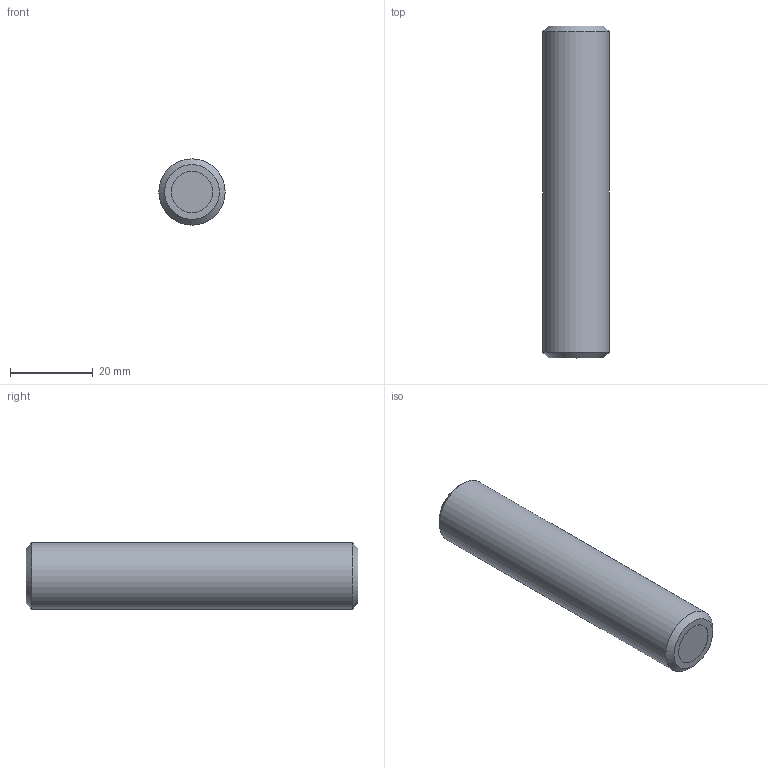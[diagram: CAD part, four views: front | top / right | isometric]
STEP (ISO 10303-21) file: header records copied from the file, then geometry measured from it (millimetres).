
FILE_DESCRIPTION(/* description */ ('STEP AP214'),/* implementation_level */ '2;1');
FILE_NAME(/* name */ 'Grub screw with retaining magnet GN 913.6-M16-80-ND',/* time_stamp */ '2023-10-03T11:27:34+02:00',/* author */ ('License CC BY-ND 4.0'),/* organization */ ('CADENAS'),/* preprocessor_version */ 'ST-DEVELOPER v19.3',/* originating_system */ 'PARTsolutions',/* authorisation */ ' ');
FILE_SCHEMA (('AUTOMOTIVE_DESIGN {1 0 10303 214 3 1 1}'));
Length unit declared in the file: millimetre
Products named in the file (1): Grub screw with retaining magnet GN 913.6-M16-80-ND
Bounding box: 16 x 80 x 16 mm (x, y, z)
Volume: 15530 mm3; surface area: 4556.6 mm2
Topology: 1 solids, 1 shells, 22 faces, 46 edges, 28 vertices
Faces by surface type: plane 16, cone 3, cylinder 3
Full cylindrical faces by diameter (mm): 9.96 x1, 10 x1, 16 x1
Entity records: 566 total; most frequent: DIRECTION 98, CARTESIAN_POINT 88, ORIENTED_EDGE 76, EDGE_CURVE 38, AXIS2_PLACEMENT_3D 37, FACE_BOUND 31, EDGE_LOOP 30, VERTEX_POINT 27
